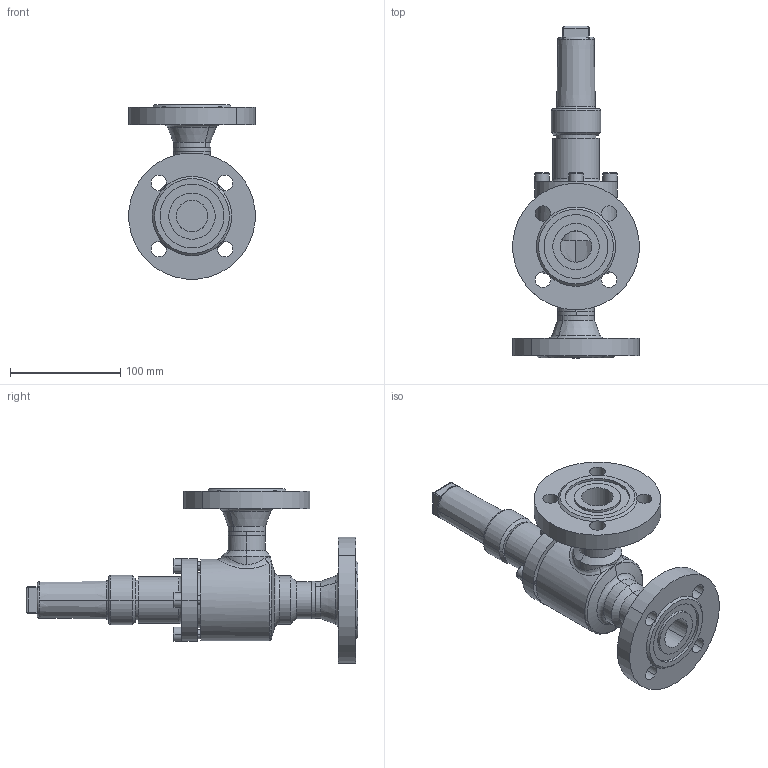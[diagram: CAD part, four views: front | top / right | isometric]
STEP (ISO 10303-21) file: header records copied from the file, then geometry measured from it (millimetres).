
FILE_DESCRIPTION (( 'STEP AP214' ), '1' );
FILE_NAME ('RVA29420D12-DN025_DIN-FL-N_PS40.STEP', '2006-04-28T06:16:51', ( 'Herr Grams' ), ( 'AWP GmbH' ), 'SwSTEP 2.0', 'SolidWorks 2002296', '' );
FILE_SCHEMA (( 'AUTOMOTIVE_DESIGN' ));
Length unit declared in the file: millimetre
Products named in the file (10): RVA29420D12-DN025_DIN-FL-N_PS40; RVA29300E13_Deck-Schr-DN25-32_Standard; Deckel29300E13-DN25-32_Standard; Zylinderschraube-DIN912_M 8x 25; Gehäuse-kpl16420-DN025_DIN_PS40_Standard; Gehäuse16400-DN025_Standard; Flansch-DIN2635-Nut_PS40_DIN-Flansch-DN025_PS40-Nut; bead16420-Geh-025-1_Standard; bead16420-Geh-025-2_Standard; Kappe16402_DN010-32_Standard
Assembly tree (13 placements, depth 3):
  RVA29420D12-DN025_DIN-FL-N_PS40
    Kappe16402_DN010-32_Standard
    RVA29300E13_Deck-Schr-DN25-32_Standard
      Zylinderschraube-DIN912_M 8x 25  x4
      Deckel29300E13-DN25-32_Standard
    Gehäuse-kpl16420-DN025_DIN_PS40_Standard
      Flansch-DIN2635-Nut_PS40_DIN-Flansch-DN025_PS40-Nut  x2
      Gehäuse16400-DN025_Standard
      bead16420-Geh-025-2_Standard
      bead16420-Geh-025-1_Standard
Bounding box: 114.56 x 301.5 x 158.28 mm (x, y, z)
Volume: 755084 mm3; surface area: 162741.4 mm2
Topology: 11 solids, 11 shells, 282 faces, 649 edges, 406 vertices
Faces by surface type: cylinder 113, plane 82, cone 49, torus 27, bspline 11
Entity records: 18221 total; most frequent: CARTESIAN_POINT 13095, DIRECTION 997, ORIENTED_EDGE 906, EDGE_CURVE 453, AXIS2_PLACEMENT_3D 424, VERTEX_POINT 282, EDGE_LOOP 233, CIRCLE 221
